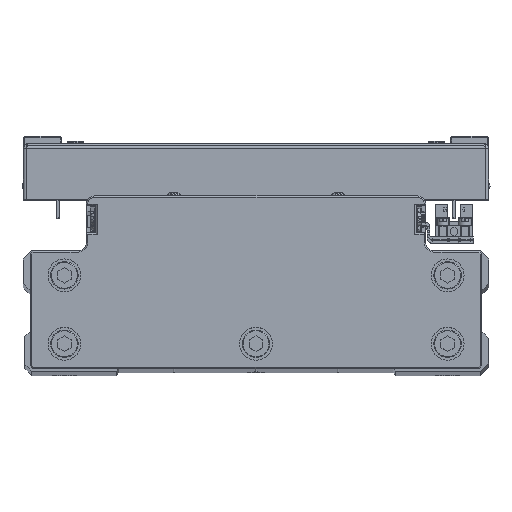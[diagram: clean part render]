
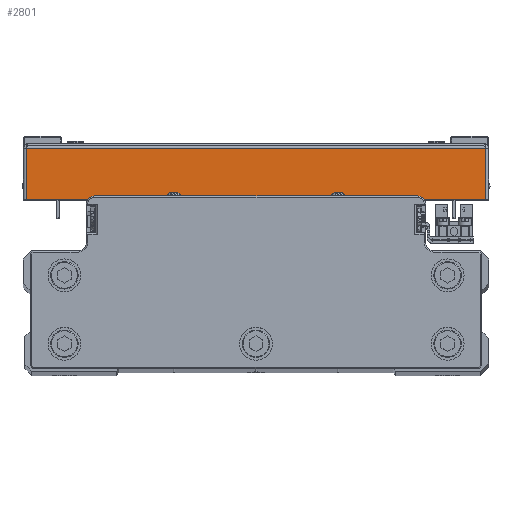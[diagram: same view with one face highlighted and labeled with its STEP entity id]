
A CAD part, top view. The second image highlights one B-rep face of the part: STEP entity #2801.
In plain terms, the highlighted planar face has unit normal (0, 0, 1) as drawn and (1, 0, 0) by its records, which use the part's own axes.
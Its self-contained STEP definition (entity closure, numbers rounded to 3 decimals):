
#889 = VERTEX_POINT ( 'NONE', #17047 ) ;
#1473 = DIRECTION ( 'NONE',  ( -1., 0., 0. ) ) ;
#1771 = VECTOR ( 'NONE', #4761, 1000. ) ;
#1887 = ORIENTED_EDGE ( 'NONE', *, *, #24248, .T. ) ;
#2801 = ADVANCED_FACE ( 'NONE', ( #4902 ), #18857, .F. ) ;
#3678 = VERTEX_POINT ( 'NONE', #8874 ) ;
#4202 = ORIENTED_EDGE ( 'NONE', *, *, #37287, .F. ) ;
#4535 = CARTESIAN_POINT ( 'NONE',  ( 110., 19.5, 0. ) ) ;
#4761 = DIRECTION ( 'NONE',  ( 0., 1., 0. ) ) ;
#4902 = FACE_OUTER_BOUND ( 'NONE', #39238, .T. ) ;
#7178 = DIRECTION ( 'NONE',  ( 0., 1., 0. ) ) ;
#8874 = CARTESIAN_POINT ( 'NONE',  ( 110., 1., -83.929 ) ) ;
#11647 = AXIS2_PLACEMENT_3D ( 'NONE', #32798, #1473, #15447 ) ;
#12758 = DIRECTION ( 'NONE',  ( 0., 0., 1. ) ) ;
#15447 = DIRECTION ( 'NONE',  ( 0., -1., 0. ) ) ;
#17047 = CARTESIAN_POINT ( 'NONE',  ( 110., 1., 83.929 ) ) ;
#18496 = DIRECTION ( 'NONE',  ( 0., 0., 1. ) ) ;
#18857 = PLANE ( 'NONE',  #11647 ) ;
#20765 = VECTOR ( 'NONE', #12758, 1000. ) ;
#21380 = ORIENTED_EDGE ( 'NONE', *, *, #26762, .T. ) ;
#22156 = LINE ( 'NONE', #36094, #1771 ) ;
#24248 = EDGE_CURVE ( 'NONE', #31925, #44226, #35864, .T. ) ;
#24569 = LINE ( 'NONE', #38509, #27847 ) ;
#26762 = EDGE_CURVE ( 'NONE', #3678, #31925, #24569, .T. ) ;
#27847 = VECTOR ( 'NONE', #7178, 1000. ) ;
#30118 = LINE ( 'NONE', #44085, #20765 ) ;
#31925 = VERTEX_POINT ( 'NONE', #37120 ) ;
#32440 = CARTESIAN_POINT ( 'NONE',  ( 110., 19.5, 83.929 ) ) ;
#32798 = CARTESIAN_POINT ( 'NONE',  ( 110., 0., 0. ) ) ;
#35864 = LINE ( 'NONE', #4535, #39149 ) ;
#36094 = CARTESIAN_POINT ( 'NONE',  ( 110., 0., 83.929 ) ) ;
#37120 = CARTESIAN_POINT ( 'NONE',  ( 110., 19.5, -83.929 ) ) ;
#37287 = EDGE_CURVE ( 'NONE', #889, #44226, #22156, .T. ) ;
#37445 = EDGE_CURVE ( 'NONE', #3678, #889, #30118, .T. ) ;
#38509 = CARTESIAN_POINT ( 'NONE',  ( 110., 0., -83.929 ) ) ;
#39149 = VECTOR ( 'NONE', #18496, 1000. ) ;
#39238 = EDGE_LOOP ( 'NONE', ( #39322, #21380, #1887, #4202 ) ) ;
#39322 = ORIENTED_EDGE ( 'NONE', *, *, #37445, .F. ) ;
#44085 = CARTESIAN_POINT ( 'NONE',  ( 110., 1., 85. ) ) ;
#44226 = VERTEX_POINT ( 'NONE', #32440 ) ;
